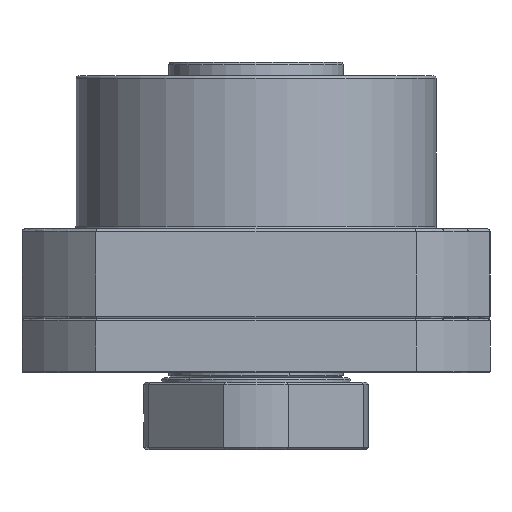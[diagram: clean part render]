
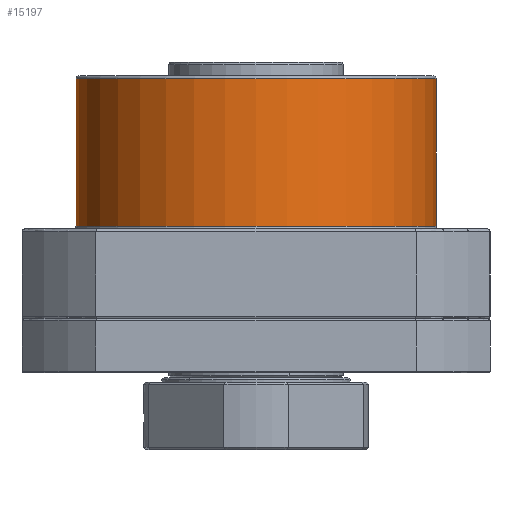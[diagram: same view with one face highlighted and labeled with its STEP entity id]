
A CAD part, front view. The second image highlights one B-rep face of the part: STEP entity #15197.
In plain terms, the highlighted cylindrical face has radius 20 mm (diameter 40 mm), a partial arc.
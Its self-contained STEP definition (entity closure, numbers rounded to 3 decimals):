
#429 = DIRECTION ( 'NONE',  ( -1., 0., 0. ) ) ;
#3292 = VECTOR ( 'NONE', #12260, 1000. ) ;
#4414 = CARTESIAN_POINT ( 'NONE',  ( 0., 0., 9.3 ) ) ;
#4707 = AXIS2_PLACEMENT_3D ( 'NONE', #25681, #4716, #429 ) ;
#4716 = DIRECTION ( 'NONE',  ( 0., 0., -1. ) ) ;
#6661 = CYLINDRICAL_SURFACE ( 'NONE', #4707, 20. ) ;
#8239 = EDGE_LOOP ( 'NONE', ( #15999, #15312, #8748, #26457 ) ) ;
#8748 = ORIENTED_EDGE ( 'NONE', *, *, #9278, .T. ) ;
#8942 = VERTEX_POINT ( 'NONE', #20805 ) ;
#9041 = FACE_OUTER_BOUND ( 'NONE', #8239, .T. ) ;
#9278 = EDGE_CURVE ( 'NONE', #24754, #18813, #9582, .T. ) ;
#9301 = DIRECTION ( 'NONE',  ( 0., 0., -1. ) ) ;
#9582 = LINE ( 'NONE', #21904, #19208 ) ;
#10750 = CARTESIAN_POINT ( 'NONE',  ( -20., 0., 9.3 ) ) ;
#11618 = CARTESIAN_POINT ( 'NONE',  ( -20., 0., 25.7 ) ) ;
#11874 = EDGE_CURVE ( 'NONE', #18813, #8942, #24188, .T. ) ;
#12260 = DIRECTION ( 'NONE',  ( 0., 0., -1. ) ) ;
#12343 = CARTESIAN_POINT ( 'NONE',  ( 20., 0., 25.7 ) ) ;
#13757 = EDGE_CURVE ( 'NONE', #25522, #24754, #17582, .T. ) ;
#14381 = LINE ( 'NONE', #16043, #3292 ) ;
#15197 = ADVANCED_FACE ( 'NONE', ( #9041 ), #6661, .T. ) ;
#15312 = ORIENTED_EDGE ( 'NONE', *, *, #13757, .T. ) ;
#15999 = ORIENTED_EDGE ( 'NONE', *, *, #23672, .F. ) ;
#16043 = CARTESIAN_POINT ( 'NONE',  ( 20., 0., 26. ) ) ;
#16825 = DIRECTION ( 'NONE',  ( 0., 0., 1. ) ) ;
#17029 = CARTESIAN_POINT ( 'NONE',  ( 0., 0., 25.7 ) ) ;
#17104 = DIRECTION ( 'NONE',  ( 1., 0., 0. ) ) ;
#17582 = CIRCLE ( 'NONE', #24312, 20. ) ;
#18813 = VERTEX_POINT ( 'NONE', #10750 ) ;
#19208 = VECTOR ( 'NONE', #9301, 1000. ) ;
#19549 = DIRECTION ( 'NONE',  ( 1., 0., 0. ) ) ;
#20805 = CARTESIAN_POINT ( 'NONE',  ( 20., 0., 9.3 ) ) ;
#21904 = CARTESIAN_POINT ( 'NONE',  ( -20., 0., 26. ) ) ;
#23629 = DIRECTION ( 'NONE',  ( 0., 0., -1. ) ) ;
#23672 = EDGE_CURVE ( 'NONE', #25522, #8942, #14381, .T. ) ;
#24188 = CIRCLE ( 'NONE', #26850, 20. ) ;
#24312 = AXIS2_PLACEMENT_3D ( 'NONE', #17029, #23629, #19549 ) ;
#24754 = VERTEX_POINT ( 'NONE', #11618 ) ;
#25522 = VERTEX_POINT ( 'NONE', #12343 ) ;
#25681 = CARTESIAN_POINT ( 'NONE',  ( 0., 0., 26. ) ) ;
#26457 = ORIENTED_EDGE ( 'NONE', *, *, #11874, .T. ) ;
#26850 = AXIS2_PLACEMENT_3D ( 'NONE', #4414, #16825, #17104 ) ;
